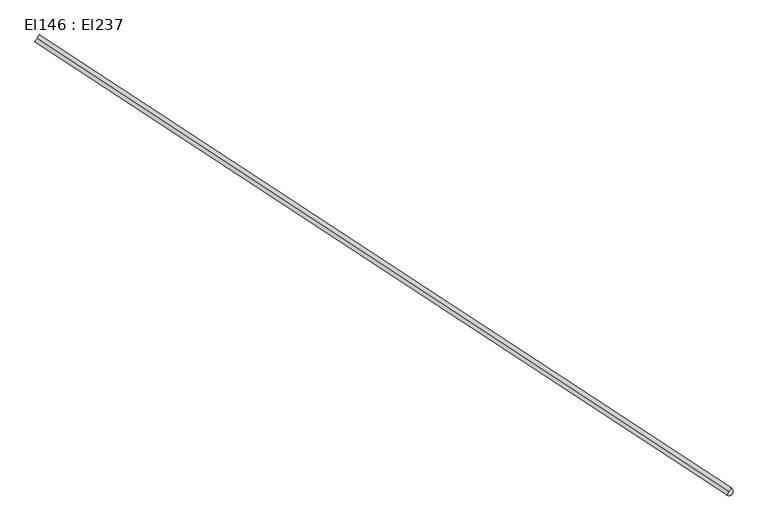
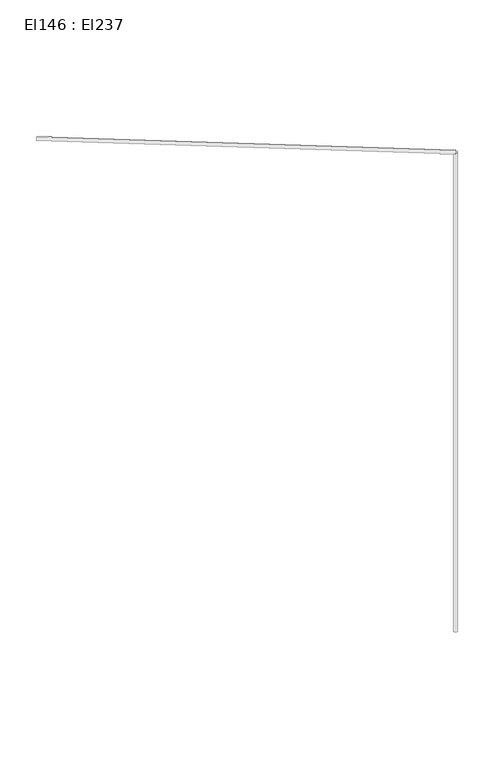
"""IFC4 building model written with IfcOpenShell, lengths in millimetres: cable carrier segment geometry, El146 : El237."""

import ifcopenshell
import ifcopenshell.guid

model = None  # the IFC model being written
_history = None  # IfcOwnerHistory: only IFC2X3 demands one
_inside = {}  # id of a spatial element -> (the spatial element, [elements in it])
_under = {}  # id of a project, library or spatial element -> (it, [spatial elements below it])
_declared = {}  # id of a project -> (the project, [libraries it declares])
_typed = {}  # id of a type object -> (the type object, [elements of that type])
_made_of = {}  # id of a material, layer set ... -> (it, [elements and type objects made of it])


def new_model(schema):
    """Start an empty IFC model of exactly this schema.

    Asked for "IFC4X3", IfcOpenShell would pick the latest addendum, in which some entities
    have other attributes; the version numbers below select the first issue.
    IFC2X3 requires an IfcOwnerHistory on every rooted entity: one is made here for all.
    """
    global model, _history
    if schema == "IFC4X3":
        model = ifcopenshell.file(schema_version=(4, 3, 0, 0))
    else:
        model = ifcopenshell.file(schema=schema)
    _inside.clear()
    _under.clear()
    _declared.clear()
    _typed.clear()
    _made_of.clear()
    _history = None
    if model.schema == "IFC2X3":
        org = make("IfcOrganization", Name="unknown")
        user = make(
            "IfcPersonAndOrganization",
            ThePerson=make("IfcPerson", FamilyName="unknown"),
            TheOrganization=org,
        )
        app = make(
            "IfcApplication",
            ApplicationDeveloper=org,
            Version="unknown",
            ApplicationFullName="unknown",
            ApplicationIdentifier="unknown",
        )
        _history = make(
            "IfcOwnerHistory",
            OwningUser=user,
            OwningApplication=app,
            ChangeAction="ADDED",
            CreationDate=0,
        )
    return model


def make(cls, **values):
    """One entity of the class cls with the attributes given. An attribute that is None is left unset."""
    return model.create_entity(
        cls, **{name: value for name, value in values.items() if value is not None}
    )


def rooted(cls, **values):
    """An entity with a GlobalId (a new one), such as an element, a storey or a relation."""
    return make(cls, GlobalId=ifcopenshell.guid.new(), OwnerHistory=_history, **values)


def si_unit(unit_type, name, prefix=None):
    """IfcSIUnit, for example si_unit("LENGTHUNIT", "METRE", prefix="MILLI")."""
    return make("IfcSIUnit", UnitType=unit_type, Prefix=prefix, Name=name)


def assignment(units):
    """IfcUnitAssignment: the units of a project."""
    return None if units is None else make("IfcUnitAssignment", Units=units)


def point(xyz):
    """IfcCartesianPoint."""
    return None if xyz is None else make("IfcCartesianPoint", Coordinates=xyz)


def direction(xyz):
    """IfcDirection."""
    return None if xyz is None else make("IfcDirection", DirectionRatios=xyz)


def frame(location, z_axis=None, x_axis=None):
    """IfcAxis2Placement3D, a coordinate frame: its origin and axes. An axis left out is left unset."""
    return make(
        "IfcAxis2Placement3D",
        Location=point(location),
        Axis=direction(z_axis),
        RefDirection=direction(x_axis),
    )


def frame_2d(location, x_axis=None):
    """IfcAxis2Placement2D, a coordinate frame in the plane: its origin and x axis."""
    return make(
        "IfcAxis2Placement2D", Location=point(location), RefDirection=direction(x_axis)
    )


def origin():
    """The frame at (0, 0, 0) with its axes left unset."""
    return frame((0.0, 0.0, 0.0))


def place(relative_to, where):
    """IfcLocalPlacement: puts the frame where relative to a parent placement (None: the world)."""
    return make(
        "IfcLocalPlacement", PlacementRelTo=relative_to, RelativePlacement=where
    )


def context(
    kind, dimensions, precision=None, world=None, true_north=None, identifier=None
):
    """IfcGeometricRepresentationContext, for example the 3D "Model" context."""
    return make(
        "IfcGeometricRepresentationContext",
        ContextIdentifier=identifier,
        ContextType=kind,
        CoordinateSpaceDimension=dimensions,
        Precision=precision,
        WorldCoordinateSystem=world,
        TrueNorth=true_north,
    )


def project(units=None, contexts=None):
    """IfcProject with its units and contexts."""
    return rooted(
        "IfcProject",
        Name="project",
        RepresentationContexts=contexts,
        UnitsInContext=assignment(units),
    )


def spatial(cls, under=None, at=None, **own):
    """A site, building, storey or space (cls), placed at a placement, below another one or the project."""
    s = rooted(cls, ObjectPlacement=at, **own)
    if under is not None:
        _under.setdefault(under.id(), (under, []))[1].append(s)
    return s


def circle_curve(where, radius):
    """IfcCircle in the frame where."""
    return make("IfcCircle", Position=where, Radius=radius)


def trimmed(basis, trim1, trim2, sense, master):
    """IfcTrimmedCurve: the piece of a basis curve between two trims."""
    return make(
        "IfcTrimmedCurve",
        BasisCurve=basis,
        Trim1=trim1,
        Trim2=trim2,
        SenseAgreement=sense,
        MasterRepresentation=master,
    )


def segment(curve, same_sense, transition):
    """IfcCompositeCurveSegment."""
    return make(
        "IfcCompositeCurveSegment",
        Transition=transition,
        SameSense=same_sense,
        ParentCurve=curve,
    )


def composite_curve(segments, self_intersect=None):
    """IfcCompositeCurve: segments joined end to end."""
    return make("IfcCompositeCurve", Segments=segments, SelfIntersect=self_intersect)


def outline(outer, holes=None, kind="AREA"):
    """IfcArbitraryClosedProfileDef: a profile drawn as a closed curve; with holes, ...WithVoids."""
    if holes is None:
        return make("IfcArbitraryClosedProfileDef", ProfileType=kind, OuterCurve=outer)
    return make(
        "IfcArbitraryProfileDefWithVoids",
        ProfileType=kind,
        OuterCurve=outer,
        InnerCurves=holes,
    )


def extrude(swept, where, along, depth):
    """IfcExtrudedAreaSolid: the profile swept, set in the frame where, extruded along a direction by depth."""
    return make(
        "IfcExtrudedAreaSolid",
        SweptArea=swept,
        Position=where,
        ExtrudedDirection=direction(along),
        Depth=depth,
    )


def shape(context_of_items, identifier, shape_type, items):
    """IfcShapeRepresentation: the items that make up one representation, for example the "Body"."""
    return make(
        "IfcShapeRepresentation",
        ContextOfItems=context_of_items,
        RepresentationIdentifier=identifier,
        RepresentationType=shape_type,
        Items=items,
    )


def source(mapping_origin, context_of_items, identifier, shape_type, items):
    """IfcRepresentationMap: a shape defined once, which mapped items show again and again."""
    return make(
        "IfcRepresentationMap",
        MappingOrigin=mapping_origin,
        MappedRepresentation=shape(context_of_items, identifier, shape_type, items),
    )


def transform(
    local_origin,
    x_axis=None,
    y_axis=None,
    z_axis=None,
    scale=None,
    scale2=None,
    scale3=None,
    uniform=True,
):
    """IfcCartesianTransformationOperator3D, or its non-uniform kind. x_axis, y_axis, z_axis: its Axis1, 2, 3."""
    if uniform:
        return make(
            "IfcCartesianTransformationOperator3D",
            Axis1=direction(x_axis),
            Axis2=direction(y_axis),
            LocalOrigin=point(local_origin),
            Scale=scale,
            Axis3=direction(z_axis),
        )
    return make(
        "IfcCartesianTransformationOperator3DnonUniform",
        Axis1=direction(x_axis),
        Axis2=direction(y_axis),
        LocalOrigin=point(local_origin),
        Scale=scale,
        Axis3=direction(z_axis),
        Scale2=scale2,
        Scale3=scale3,
    )


def mapped(mapping_source, mapping_target):
    """IfcMappedItem: shows the shape of a source again, moved by a transform."""
    return make(
        "IfcMappedItem", MappingSource=mapping_source, MappingTarget=mapping_target
    )


def made_of(thing, what):
    """Note that an element or type object is made of a material, layer set ...; save() writes the relation."""
    if what is not None:
        _made_of.setdefault(what.id(), (what, []))[1].append(thing)
    return thing


def element(
    cls,
    number,
    at=None,
    inside=None,
    cuts=None,
    type_object=None,
    material=None,
    context=None,
    identifier="Body",
    shape_type=None,
    held_by="IfcProductDefinitionShape",
    body=None,
    shapes=None,
    **own,
):
    """One element of the class cls, such as IfcWall. Its Tag is "e" and its number.

    at: its placement. inside: the storey or other place that contains it. cuts: it is an
    opening in that element (IfcRelVoidsElement). A single representation is given by context,
    identifier, shape_type and body (its items); several are given by shapes. held_by: the class
    of the entity that holds the representations. save() writes the other relations.
    """
    e = rooted(cls, Tag="e%d" % number, ObjectPlacement=at, **own)
    if body is not None:
        shapes = [shape(context, identifier, shape_type, body)]
    if shapes is not None:
        e.Representation = make(held_by, Representations=shapes)
    if inside is not None:
        _inside.setdefault(inside.id(), (inside, []))[1].append(e)
    if cuts is not None:
        rooted(
            "IfcRelVoidsElement", RelatingBuildingElement=cuts, RelatedOpeningElement=e
        )
    if type_object is not None:
        _typed.setdefault(type_object.id(), (type_object, []))[1].append(e)
    return made_of(e, material)


def aggregate(whole, parts):
    """IfcRelAggregates: a whole, such as a stair, and the parts it consists of."""
    return rooted("IfcRelAggregates", RelatingObject=whole, RelatedObjects=parts)


def save(model, path):
    """Write the relations noted so far, then the file.

    IfcRelAggregates (storeys below a building ...), IfcRelContainedInSpatialStructure (elements
    in a storey), IfcRelDefinesByType, IfcRelAssociatesMaterial and IfcRelDeclares: one each for
    every whole, place, type object, material and project.
    """
    for whole, parts in _under.values():
        aggregate(whole, parts)
    for where, things in _inside.values():
        rooted(
            "IfcRelContainedInSpatialStructure",
            RelatedElements=things,
            RelatingStructure=where,
        )
    for kind, things in _typed.values():
        rooted("IfcRelDefinesByType", RelatedObjects=things, RelatingType=kind)
    for what, things in _made_of.values():
        rooted("IfcRelAssociatesMaterial", RelatedObjects=things, RelatingMaterial=what)
    for by, libraries in _declared.values():
        rooted("IfcRelDeclares", RelatingContext=by, RelatedDefinitions=libraries)
    model.write(path)


def el146_el237_084dc854(model_context):
    return source(origin(), model_context, "Body", "SweptSolid", [
        extrude(outline(composite_curve([segment(trimmed(circle_curve(frame_2d((10036.4186511, 19016.0061745)), 9.5), [point((10026.9186511, 19016.0061745))], [point((10045.9186511, 19016.0061745))], False, "CARTESIAN"), True, "CONTINUOUS"), segment(trimmed(circle_curve(frame_2d((10036.4186511, 19016.0061745)), 9.5), [point((10045.9186511, 19016.0061745))], [point((10026.9186511, 19016.0061745))], False, "CARTESIAN"), True, "CONTINUOUS")], self_intersect=False)), frame((0.0, 0.0, 1830.0), z_axis=(0.0, 0.0, 1.0), x_axis=(1.0, 0.0, 0.0)), (0.0, 0.0, 1.0), 2620.0),
        extrude(outline(composite_curve([segment(trimmed(circle_curve(frame_2d((0.0, -9.5)), 9.5), [point((0.0, -19.0))], [point((0.0, 0.0))], False, "CARTESIAN"), True, "CONTINUOUS"), segment(trimmed(circle_curve(frame_2d((0.0, -9.5)), 9.5), [point((0.0, 0.0))], [point((0.0, -19.0))], False, "CARTESIAN"), True, "CONTINUOUS")], self_intersect=False)), frame((10036.415008, 19016.0090293, 4459.5), z_axis=(-0.8365426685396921, 0.5479017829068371, 0.0), x_axis=(-0.5479017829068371, -0.8365426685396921, 0.0)), (0.0, 0.0, 1.0), 1881.29),
    ])


if __name__ == "__main__":
    model = new_model("IFC4")
    model_context = context("Model", 3, world=origin())
    ifc_project = project(units=[si_unit("LENGTHUNIT", "METRE", prefix="MILLI")], contexts=[model_context])
    site = spatial("IfcSite", under=ifc_project)
    building = spatial("IfcBuilding", under=site)
    placement = place(None, origin())
    el146_el237_shape = el146_el237_084dc854(model_context)
    element("IfcCableCarrierSegment", 1, ObjectType="El146 : El237", at=placement, inside=building, context=model_context, shape_type="MappedRepresentation", body=[
        mapped(el146_el237_shape, transform((0.0, 0.0, 0.0), x_axis=(1.0, 0.0, 0.0), y_axis=(0.0, 1.0, 0.0), z_axis=(0.0, 0.0, 1.0))),
    ])
    save(model, "model.ifc")
